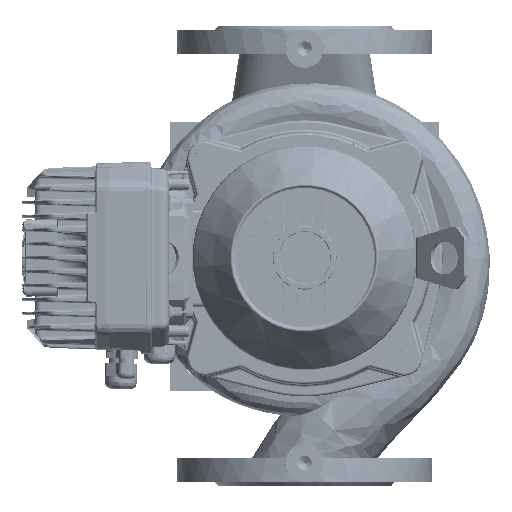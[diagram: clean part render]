
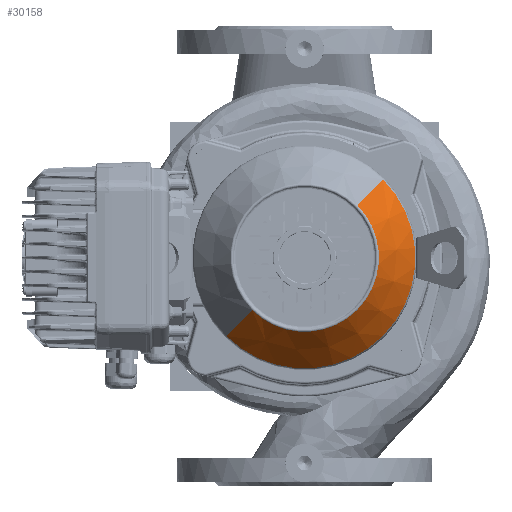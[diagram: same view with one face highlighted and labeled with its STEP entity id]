
A CAD part, top view. The second image highlights one B-rep face of the part: STEP entity #30158.
In plain terms, the highlighted conical face has half-angle 37 degrees and reference radius 58.108 mm.
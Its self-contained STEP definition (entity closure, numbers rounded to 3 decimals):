
#30158=ADVANCED_FACE('NONE',(#101111),#101112,.T.);
#101111=FACE_OUTER_BOUND('',#148464,.T.);
#101112=CONICAL_SURFACE('',#148465,58.108,0.646);
#148464=EDGE_LOOP('',(#179622,#179623,#179624,#179625));
#148465=AXIS2_PLACEMENT_3D('',#179626,#179627,#179628);
#179622=ORIENTED_EDGE('',*,*,#207242,.T.);
#179623=ORIENTED_EDGE('',*,*,#207320,.T.);
#179624=ORIENTED_EDGE('',*,*,#207243,.T.);
#179625=ORIENTED_EDGE('',*,*,#207346,.F.);
#179626=CARTESIAN_POINT('',(0.,96.403,0.));
#179627=DIRECTION('',(0.,-1.0,0.));
#179628=DIRECTION('',(0.,0.,-1.0));
#207242=EDGE_CURVE('',#297652,#297655,#297656,.T.);
#207243=EDGE_CURVE('',#297657,#297650,#297658,.T.);
#207320=EDGE_CURVE('NONE',#297655,#297657,#297789,.T.);
#207346=EDGE_CURVE('NONE',#297652,#297650,#297821,.T.);
#297650=VERTEX_POINT('',#328145);
#297652=VERTEX_POINT('NONE',#328147);
#297655=VERTEX_POINT('NONE',#328150);
#297656=LINE('',#328151,#328152);
#297657=VERTEX_POINT('',#328153);
#297658=LINE('',#328154,#328155);
#297789=CIRCLE('',#328648,86.592);
#297821=CIRCLE('',#328878,58.108);
#328145=CARTESIAN_POINT('',(0.,96.403,58.108));
#328147=CARTESIAN_POINT('',(0.,96.403,-58.108));
#328150=CARTESIAN_POINT('',(0.,58.603,-86.592));
#328151=CARTESIAN_POINT('',(0.,96.403,-58.108));
#328152=VECTOR('',#339302,1.0);
#328153=CARTESIAN_POINT('',(0.,58.603,86.592));
#328154=CARTESIAN_POINT('',(0.,96.403,58.108));
#328155=VECTOR('',#339303,1.0);
#328648=AXIS2_PLACEMENT_3D('',#339430,#339431,#339432);
#328878=AXIS2_PLACEMENT_3D('',#339490,#339491,#339492);
#339302=DIRECTION('',(0.,-0.799,-0.602));
#339303=DIRECTION('',(0.,0.799,-0.602));
#339430=CARTESIAN_POINT('',(0.,58.603,0.));
#339431=DIRECTION('',(0.,1.0,0.));
#339432=DIRECTION('',(0.,0.,1.0));
#339490=CARTESIAN_POINT('',(0.,96.403,0.));
#339491=DIRECTION('',(0.,1.0,0.));
#339492=DIRECTION('',(0.,0.,1.0));
